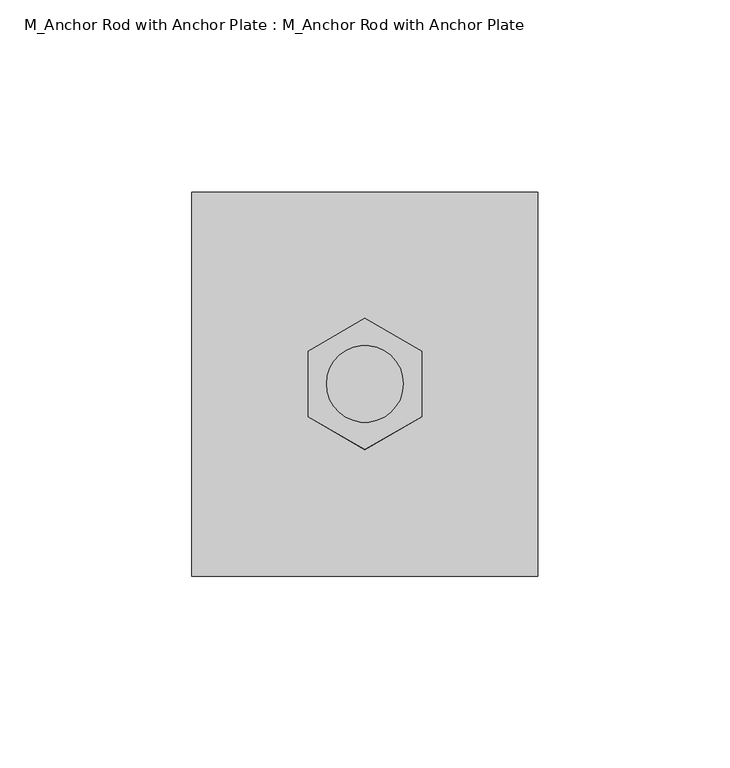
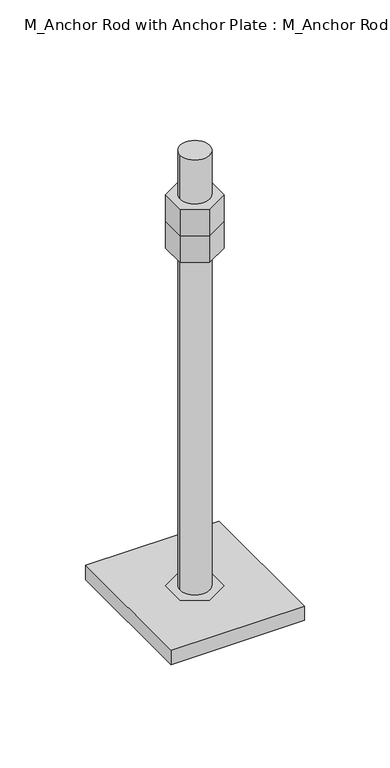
"""IFC4 building model written with IfcOpenShell, lengths in millimetres: fastener geometry, M_Anchor Rod with Anchor Plate : M_Anchor Rod with Anchor Plate."""

from ifc_helpers import new_model, si_unit, point, frame, origin, origin_with_axes, origin_2d, place, context, project, spatial, polyline, circle_curve, trimmed, segment, composite_curve, outline, extrude, source, transform, mapped, element, save


def m_anchor_rod_with_anchor_plate_m_anchor_rod_with_anchor_bff3a3cc(model_context):
    return source(origin(), model_context, "Body", "SweptSolid", [
        extrude(outline(polyline([(0.0, 17.0462667), (14.7625, 8.5231333), (14.7625, -8.5231333), (0.0, -17.0462667), (-14.7625, -8.5231333), (-14.7625, 8.5231333), (0.0, 17.0462667)])), frame((0.0, 0.0, -283.0), z_axis=(0.0, 0.0, 1.0), x_axis=(1.0, 0.0, 0.0)), (0.0, 0.0, 1.0), 23.0),
        extrude(outline(polyline([(45.0625, -50.0), (-45.0625, -50.0), (-45.0625, 50.0), (45.0625, 50.0), (45.0625, -50.0)])), frame((0.0, 0.0, -270.3), z_axis=(0.0, 0.0, 1.0), x_axis=(1.0, 0.0, 0.0)), (0.0, 0.0, 1.0), 10.3),
        extrude(outline(polyline([(-14.7625, 8.5231333), (0.0, 17.0462667), (14.7625, 8.5231333), (14.7625, -8.5231333), (0.0, -17.0462667), (-14.7625, -8.5231333), (-14.7625, 8.5231333)])), origin_with_axes(), (0.0, 0.0, 1.0), 19.05),
        extrude(outline(composite_curve([segment(trimmed(circle_curve(origin_2d(), 10.0), [point((10.0, 0.0))], [point((-10.0, 0.0))], False, "CARTESIAN"), True, "CONTINUOUS"), segment(trimmed(circle_curve(origin_2d(), 10.0), [point((-10.0, 0.0))], [point((10.0, 0.0))], False, "CARTESIAN"), True, "CONTINUOUS")], self_intersect=False)), frame((0.0, 0.0, -283.0), z_axis=(0.0, 0.0, 1.0), x_axis=(1.0, 0.0, 0.0)), (0.0, 0.0, 1.0), 333.8),
        extrude(outline(polyline([(-14.7625, 8.5231333), (0.0, 17.0462667), (14.7625, 8.5231333), (14.7625, -8.5231333), (0.0, -17.0462667), (-14.7625, -8.5231333), (-14.7625, 8.5231333)])), frame((0.0, 0.0, -19.05), z_axis=(0.0, 0.0, 1.0), x_axis=(1.0, 0.0, 0.0)), (0.0, 0.0, 1.0), 19.05),
    ])


if __name__ == "__main__":
    model = new_model("IFC4")
    model_context = context("Model", 3, world=origin())
    ifc_project = project(units=[si_unit("LENGTHUNIT", "METRE", prefix="MILLI")], contexts=[model_context])
    site = spatial("IfcSite", under=ifc_project)
    building = spatial("IfcBuilding", under=site)
    placement = place(None, origin())
    m_anchor_rod_with_anchor_plate_m_anchor_rod_with_anchor_shape = m_anchor_rod_with_anchor_plate_m_anchor_rod_with_anchor_bff3a3cc(model_context)
    element("IfcFastener", 1, ObjectType="M_Anchor Rod with Anchor Plate : M_Anchor Rod with Anchor Plate", at=placement, inside=building, context=model_context, shape_type="MappedRepresentation", body=[
        mapped(m_anchor_rod_with_anchor_plate_m_anchor_rod_with_anchor_shape, transform((0.0, 0.0, 0.0), x_axis=(1.0, 0.0, 0.0), y_axis=(0.0, 1.0, 0.0), z_axis=(0.0, 0.0, 1.0))),
    ])
    save(model, "model.ifc")
